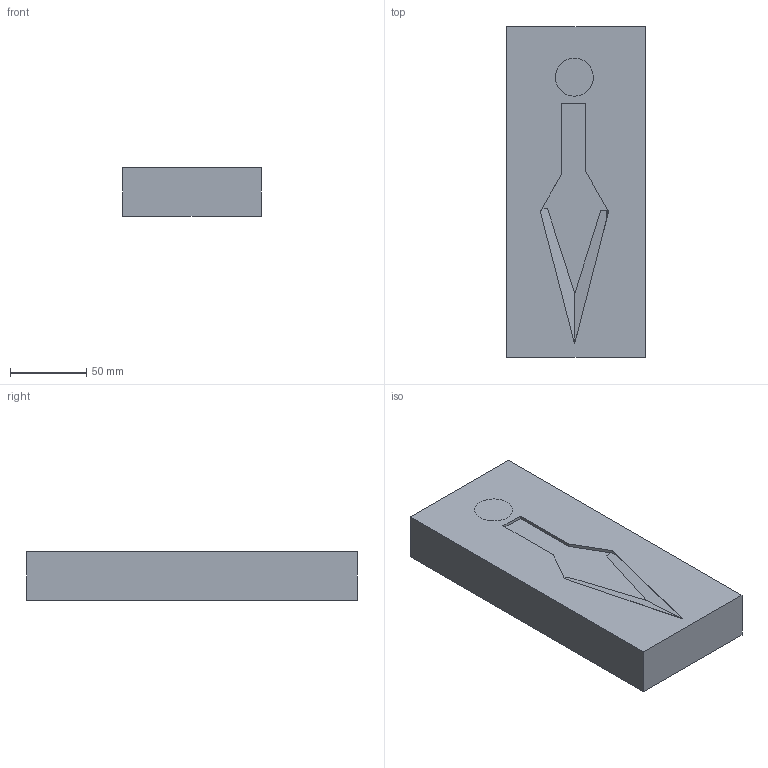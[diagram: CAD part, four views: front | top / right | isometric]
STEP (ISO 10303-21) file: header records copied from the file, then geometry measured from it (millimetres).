
FILE_DESCRIPTION(/* description */ (''),/* implementation_level */ '2;1');
FILE_NAME(/* name */ 'RINOYM~1',/* time_stamp */ '2018-03-26T05:35:59+05:00',/* author */ (''),/* organization */ (''),/* preprocessor_version */ 'ST-DEVELOPER v16.5',/* originating_system */ '',/* authorisation */ '');
FILE_SCHEMA (('AUTOMOTIVE_DESIGN'));
Length unit declared in the file: millimetre
Products named in the file (1): Document
Bounding box: 91.34 x 217.49 x 32.1 mm (x, y, z)
Volume: 630384.7 mm3; surface area: 60342.1 mm2
Topology: 1 solids, 1 shells, 26 faces, 71 edges, 47 vertices
Faces by surface type: plane 16, bspline 10
Entity records: 864 total; most frequent: CARTESIAN_POINT 368, ORIENTED_EDGE 132, EDGE_CURVE 66, B_SPLINE_CURVE_WITH_KNOTS 58, VERTEX_POINT 44, EDGE_LOOP 28, ADVANCED_FACE 26, FACE_OUTER_BOUND 26
